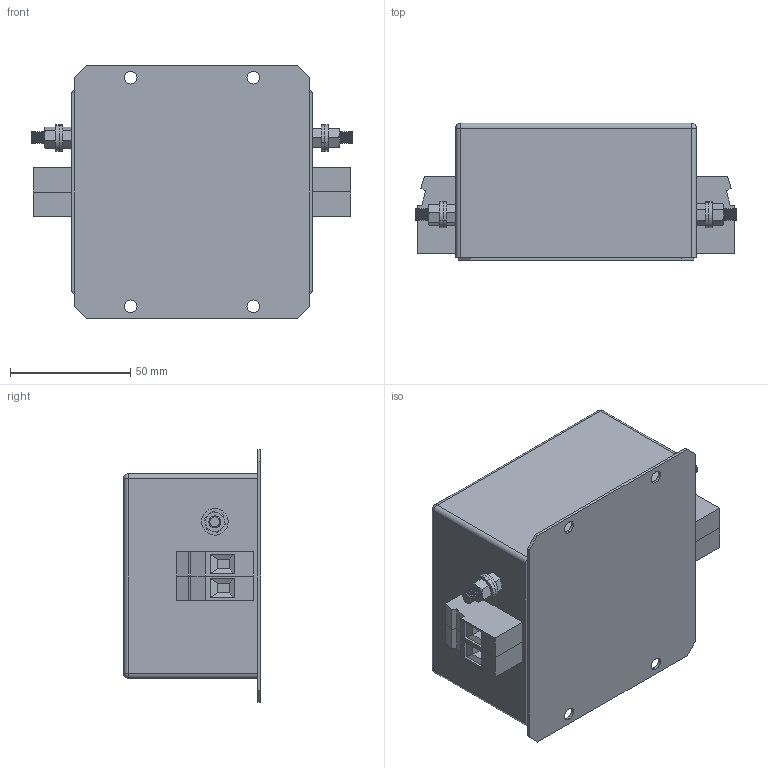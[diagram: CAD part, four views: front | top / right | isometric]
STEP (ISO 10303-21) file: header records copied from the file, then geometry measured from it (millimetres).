
FILE_DESCRIPTION (( 'STEP AP203' ), '1' );
FILE_NAME ('NF-30-1ph-FSA.STEP', '2018-10-15T11:30:07', ( '' ), ( '' ), 'SwSTEP 2.0', 'SolidWorks 2017', '' );
FILE_SCHEMA (( 'CONFIG_CONTROL_DESIGN' ));
Length unit declared in the file: millimetre
Products named in the file (7): hex nut style 1_am_B18.2.4.1M - Hex nut, Style 1,  M5 x 0.8 --D-N; hex screw_am_B18.6.7M - M5 x 0.8 x 13 Indented HHMS --13S; flat washer narrow_am_B18.22M - Plain washer, 5 mm, narrow; M5x13 Earth post; VDFK-6; NF-30-1ph-FSA; NF-1ph-FSA a
Assembly tree (11 placements, depth 3):
  NF-30-1ph-FSA
    NF-1ph-FSA a
    M5x13 Earth post  x2
      hex screw_am_B18.6.7M - M5 x 0.8 x 13 Indented HHMS --13S
      flat washer narrow_am_B18.22M - Plain washer, 5 mm, narrow
      hex nut style 1_am_B18.2.4.1M - Hex nut, Style 1,  M5 x 0.8 --D-N
    VDFK-6  x4
Bounding box: 133.6 x 57 x 105 mm (x, y, z)
Volume: 494170.7 mm3; surface area: 60273.8 mm2
Topology: 13 solids, 13 shells, 580 faces, 1430 edges, 892 vertices
Faces by surface type: plane 246, cone 176, cylinder 154, sphere 4
Entity records: 8474 total; most frequent: CARTESIAN_POINT 1429, DIRECTION 1403, ORIENTED_EDGE 1242, EDGE_CURVE 621, AXIS2_PLACEMENT_3D 552, VERTEX_POINT 386, LINE 299, VECTOR 299
